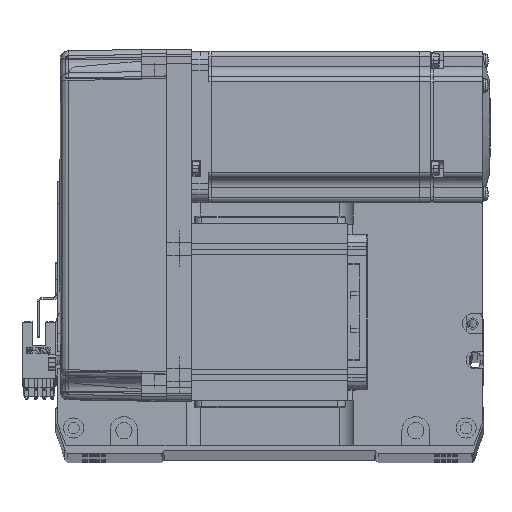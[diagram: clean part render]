
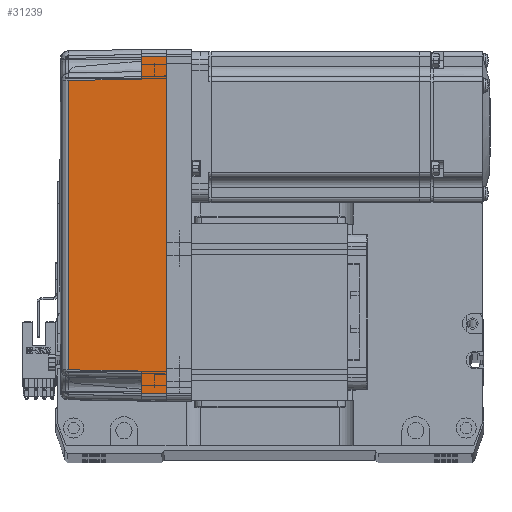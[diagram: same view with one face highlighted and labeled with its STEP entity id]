
A CAD part, top view. The second image highlights one B-rep face of the part: STEP entity #31239.
In plain terms, the highlighted planar face has unit normal (-0.018, 0, 1) as drawn and (0, 1, 0.017) by its records, which use the part's own axes.
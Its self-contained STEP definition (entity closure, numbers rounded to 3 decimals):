
#928 = CARTESIAN_POINT ( 'NONE',  ( 67.001, 36.001, -0.052 ) ) ;
#1018 = CARTESIAN_POINT ( 'NONE',  ( -58., 35.825, 10. ) ) ;
#1319 = VECTOR ( 'NONE', #47468, 1000. ) ;
#4007 = CARTESIAN_POINT ( 'NONE',  ( 58., 35.825, 10. ) ) ;
#4782 = CARTESIAN_POINT ( 'NONE',  ( -57.495, 35.32, 38.985 ) ) ;
#5269 = EDGE_CURVE ( 'NONE', #59990, #10073, #16627, .T. ) ;
#5297 = B_SPLINE_CURVE_WITH_KNOTS ( 'NONE', 3,
 ( #4782, #62383, #56951, #20746 ),
 .UNSPECIFIED., .F., .F.,
 ( 4, 4 ),
 ( 0., 1. ),
 .UNSPECIFIED. ) ;
#5386 = ORIENTED_EDGE ( 'NONE', *, *, #49430, .T. ) ;
#5531 = EDGE_CURVE ( 'NONE', #47452, #39296, #59956, .T. ) ;
#6139 = EDGE_CURVE ( 'NONE', #22790, #15662, #9089, .T. ) ;
#8776 = CARTESIAN_POINT ( 'NONE',  ( 70., 35.825, 10. ) ) ;
#9089 = LINE ( 'NONE', #43185, #32819 ) ;
#10073 = VERTEX_POINT ( 'NONE', #43450 ) ;
#10701 = CARTESIAN_POINT ( 'NONE',  ( -66.826, 35.825, 10. ) ) ;
#10859 = PLANE ( 'NONE',  #35077 ) ;
#13051 = LINE ( 'NONE', #50423, #40894 ) ;
#13339 = DIRECTION ( 'NONE',  ( 1., 0., 0. ) ) ;
#14719 = LINE ( 'NONE', #27745, #15494 ) ;
#15494 = VECTOR ( 'NONE', #43749, 1000. ) ;
#15662 = VERTEX_POINT ( 'NONE', #4007 ) ;
#16627 = LINE ( 'NONE', #8776, #59149 ) ;
#18137 = ORIENTED_EDGE ( 'NONE', *, *, #45551, .F. ) ;
#18398 = DIRECTION ( 'NONE',  ( 1., 0., 0. ) ) ;
#20746 = CARTESIAN_POINT ( 'NONE',  ( 57.495, 35.32, 38.985 ) ) ;
#22050 = DIRECTION ( 'NONE',  ( 0., 1., 0.017 ) ) ;
#22790 = VERTEX_POINT ( 'NONE', #27698 ) ;
#23212 = CARTESIAN_POINT ( 'NONE',  ( -67., 36., 0. ) ) ;
#24862 = ORIENTED_EDGE ( 'NONE', *, *, #5269, .T. ) ;
#25018 = CARTESIAN_POINT ( 'NONE',  ( 67., 36., 0. ) ) ;
#27123 = DIRECTION ( 'NONE',  ( 0., -0.017, 1. ) ) ;
#27221 = VECTOR ( 'NONE', #37718, 1000. ) ;
#27698 = CARTESIAN_POINT ( 'NONE',  ( 57.495, 35.32, 38.985 ) ) ;
#27745 = CARTESIAN_POINT ( 'NONE',  ( -67., 36., 0. ) ) ;
#31113 = VERTEX_POINT ( 'NONE', #23212 ) ;
#31239 = ADVANCED_FACE ( 'NONE', ( #57741 ), #10859, .T. ) ;
#32819 = VECTOR ( 'NONE', #33077, 1000. ) ;
#33077 = DIRECTION ( 'NONE',  ( 0.017, 0.017, -1. ) ) ;
#35077 = AXIS2_PLACEMENT_3D ( 'NONE', #37381, #22050, #27123 ) ;
#36827 = VECTOR ( 'NONE', #38638, 1000. ) ;
#37160 = EDGE_CURVE ( 'NONE', #31113, #59990, #14719, .T. ) ;
#37381 = CARTESIAN_POINT ( 'NONE',  ( 70., 36., 0. ) ) ;
#37629 = LINE ( 'NONE', #43692, #36827 ) ;
#37718 = DIRECTION ( 'NONE',  ( -0.017, -0.017, 1. ) ) ;
#37765 = ORIENTED_EDGE ( 'NONE', *, *, #5531, .F. ) ;
#38638 = DIRECTION ( 'NONE',  ( 1., 0., 0. ) ) ;
#39296 = VERTEX_POINT ( 'NONE', #44986 ) ;
#40894 = VECTOR ( 'NONE', #13339, 1000. ) ;
#41953 = ORIENTED_EDGE ( 'NONE', *, *, #6139, .T. ) ;
#43185 = CARTESIAN_POINT ( 'NONE',  ( 57.495, 35.32, 38.985 ) ) ;
#43450 = CARTESIAN_POINT ( 'NONE',  ( -58., 35.825, 10. ) ) ;
#43692 = CARTESIAN_POINT ( 'NONE',  ( 0., 36., 0. ) ) ;
#43749 = DIRECTION ( 'NONE',  ( 0.017, -0.017, 1. ) ) ;
#44986 = CARTESIAN_POINT ( 'NONE',  ( 66.826, 35.825, 10. ) ) ;
#45515 = LINE ( 'NONE', #1018, #1319 ) ;
#45551 = EDGE_CURVE ( 'NONE', #31113, #47452, #37629, .T. ) ;
#47235 = ORIENTED_EDGE ( 'NONE', *, *, #60933, .T. ) ;
#47452 = VERTEX_POINT ( 'NONE', #25018 ) ;
#47468 = DIRECTION ( 'NONE',  ( 0.017, -0.017, 1. ) ) ;
#49430 = EDGE_CURVE ( 'NONE', #58672, #22790, #5297, .T. ) ;
#49744 = CARTESIAN_POINT ( 'NONE',  ( -57.495, 35.32, 38.985 ) ) ;
#50423 = CARTESIAN_POINT ( 'NONE',  ( 70., 35.825, 10. ) ) ;
#51106 = EDGE_LOOP ( 'NONE', ( #64000, #24862, #55128, #5386, #41953, #47235, #37765, #18137 ) ) ;
#52804 = EDGE_CURVE ( 'NONE', #10073, #58672, #45515, .T. ) ;
#55128 = ORIENTED_EDGE ( 'NONE', *, *, #52804, .T. ) ;
#56951 = CARTESIAN_POINT ( 'NONE',  ( 19.165, 35.316, 39.181 ) ) ;
#57741 = FACE_OUTER_BOUND ( 'NONE', #51106, .T. ) ;
#58672 = VERTEX_POINT ( 'NONE', #49744 ) ;
#59149 = VECTOR ( 'NONE', #18398, 1000. ) ;
#59956 = LINE ( 'NONE', #928, #27221 ) ;
#59990 = VERTEX_POINT ( 'NONE', #10701 ) ;
#60933 = EDGE_CURVE ( 'NONE', #15662, #39296, #13051, .T. ) ;
#62383 = CARTESIAN_POINT ( 'NONE',  ( -19.165, 35.316, 39.181 ) ) ;
#64000 = ORIENTED_EDGE ( 'NONE', *, *, #37160, .T. ) ;
